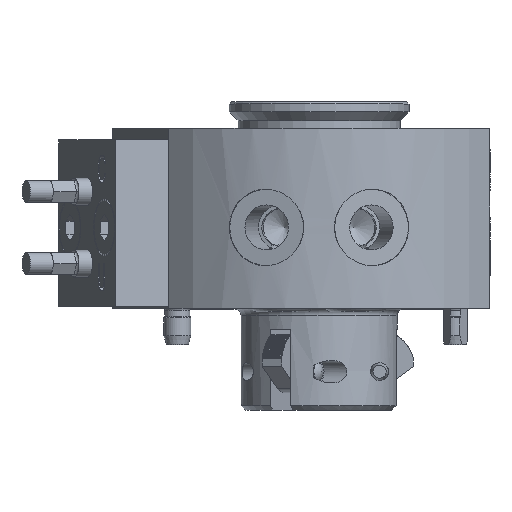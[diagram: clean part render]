
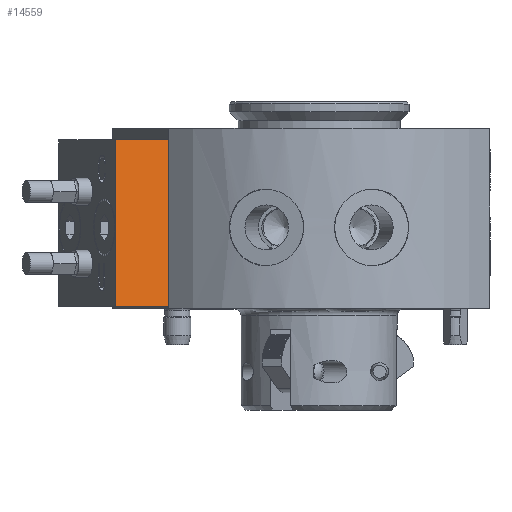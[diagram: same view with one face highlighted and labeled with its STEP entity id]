
A CAD part, top view. The second image highlights one B-rep face of the part: STEP entity #14559.
In plain terms, the highlighted planar face has unit normal (0.383, 0, 0.924) as drawn and (1, 0, 0) by its records, which use the part's own axes.
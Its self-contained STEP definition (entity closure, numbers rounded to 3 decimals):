
#1864 = VERTEX_POINT ( 'NONE', #11488 ) ;
#2097 = FACE_OUTER_BOUND ( 'NONE', #10952, .T. ) ;
#2187 = CARTESIAN_POINT ( 'NONE',  ( 8.25, -9.25, -6.4 ) ) ;
#2581 = LINE ( 'NONE', #12132, #8789 ) ;
#2633 = LINE ( 'NONE', #8351, #9370 ) ;
#2651 = VERTEX_POINT ( 'NONE', #3713 ) ;
#2733 = ORIENTED_EDGE ( 'NONE', *, *, #6518, .F. ) ;
#3125 = ORIENTED_EDGE ( 'NONE', *, *, #3979, .F. ) ;
#3126 = LINE ( 'NONE', #4460, #9841 ) ;
#3170 = AXIS2_PLACEMENT_3D ( 'NONE', #2187, #3696, #3606 ) ;
#3295 = DIRECTION ( 'NONE',  ( 0., 0., 1. ) ) ;
#3606 = DIRECTION ( 'NONE',  ( 0., 0., -1. ) ) ;
#3696 = DIRECTION ( 'NONE',  ( 1., 0., 0. ) ) ;
#3713 = CARTESIAN_POINT ( 'NONE',  ( 8.25, -9.25, 0. ) ) ;
#3979 = EDGE_CURVE ( 'NONE', #2651, #16243, #2633, .T. ) ;
#4460 = CARTESIAN_POINT ( 'NONE',  ( 8.25, 9.25, -6.4 ) ) ;
#5594 = DIRECTION ( 'NONE',  ( 0., 0., 1. ) ) ;
#6266 = ORIENTED_EDGE ( 'NONE', *, *, #7591, .T. ) ;
#6410 = EDGE_CURVE ( 'NONE', #6487, #1864, #2581, .T. ) ;
#6487 = VERTEX_POINT ( 'NONE', #9629 ) ;
#6518 = EDGE_CURVE ( 'NONE', #6487, #2651, #17644, .T. ) ;
#7489 = ORIENTED_EDGE ( 'NONE', *, *, #6410, .T. ) ;
#7591 = EDGE_CURVE ( 'NONE', #1864, #16243, #3126, .T. ) ;
#8351 = CARTESIAN_POINT ( 'NONE',  ( 8.25, -9.25, 0. ) ) ;
#8507 = VECTOR ( 'NONE', #5594, 1000. ) ;
#8789 = VECTOR ( 'NONE', #13134, 1000. ) ;
#9370 = VECTOR ( 'NONE', #15325, 1000. ) ;
#9629 = CARTESIAN_POINT ( 'NONE',  ( 8.25, -9.25, -6.4 ) ) ;
#9841 = VECTOR ( 'NONE', #3295, 1000. ) ;
#9902 = CARTESIAN_POINT ( 'NONE',  ( 8.25, -9.25, -6.4 ) ) ;
#10952 = EDGE_LOOP ( 'NONE', ( #3125, #2733, #7489, #6266 ) ) ;
#11488 = CARTESIAN_POINT ( 'NONE',  ( 8.25, 9.25, -6.4 ) ) ;
#11911 = PLANE ( 'NONE',  #3170 ) ;
#12132 = CARTESIAN_POINT ( 'NONE',  ( 8.25, -9.25, -6.4 ) ) ;
#12851 = CARTESIAN_POINT ( 'NONE',  ( 8.25, 9.25, 0. ) ) ;
#13134 = DIRECTION ( 'NONE',  ( 0., 1., 0. ) ) ;
#14559 = ADVANCED_FACE ( 'NONE', ( #2097 ), #11911, .T. ) ;
#15325 = DIRECTION ( 'NONE',  ( 0., 1., 0. ) ) ;
#16243 = VERTEX_POINT ( 'NONE', #12851 ) ;
#17644 = LINE ( 'NONE', #9902, #8507 ) ;
